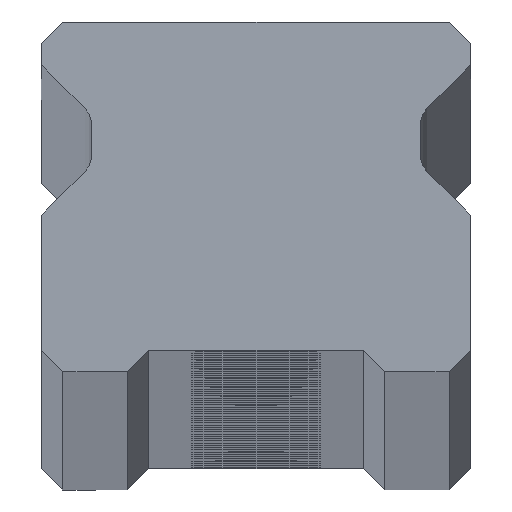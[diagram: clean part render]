
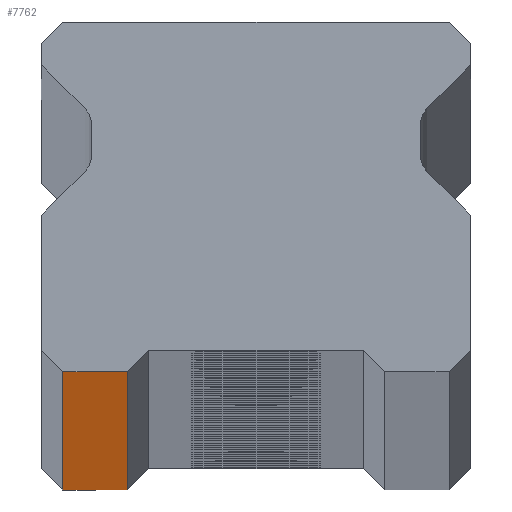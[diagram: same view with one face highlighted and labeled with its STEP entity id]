
A CAD part, top view. The second image highlights one B-rep face of the part: STEP entity #7762.
In plain terms, the highlighted planar face has unit normal (0, -1, 0).
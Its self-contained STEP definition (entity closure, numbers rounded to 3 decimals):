
#38 = VERTEX_POINT ( 'NONE', #3306 ) ;
#71 = DIRECTION ( 'NONE',  ( -1., 0., 0. ) ) ;
#610 = EDGE_CURVE ( 'NONE', #38, #5544, #5362, .T. ) ;
#655 = CARTESIAN_POINT ( 'NONE',  ( -9., 0., -1580. ) ) ;
#660 = EDGE_CURVE ( 'NONE', #38, #1353, #4820, .T. ) ;
#843 = DIRECTION ( 'NONE',  ( 1., 0., 0. ) ) ;
#1353 = VERTEX_POINT ( 'NONE', #3010 ) ;
#1498 = AXIS2_PLACEMENT_3D ( 'NONE', #8452, #7755, #71 ) ;
#1629 = ORIENTED_EDGE ( 'NONE', *, *, #660, .F. ) ;
#1676 = VECTOR ( 'NONE', #843, 1000. ) ;
#1873 = CARTESIAN_POINT ( 'NONE',  ( -6., 0., -1580. ) ) ;
#1911 = CARTESIAN_POINT ( 'NONE',  ( -6., 0., -1580. ) ) ;
#2372 = VECTOR ( 'NONE', #4743, 1000. ) ;
#2755 = VECTOR ( 'NONE', #6215, 1000. ) ;
#2898 = PLANE ( 'NONE',  #1498 ) ;
#3010 = CARTESIAN_POINT ( 'NONE',  ( -6., 0., 1580. ) ) ;
#3306 = CARTESIAN_POINT ( 'NONE',  ( -9., 0., 1580. ) ) ;
#3566 = EDGE_CURVE ( 'NONE', #4948, #1353, #6835, .T. ) ;
#3673 = ORIENTED_EDGE ( 'NONE', *, *, #3566, .T. ) ;
#4253 = EDGE_CURVE ( 'NONE', #5544, #4948, #7583, .T. ) ;
#4743 = DIRECTION ( 'NONE',  ( 0., 0., 1. ) ) ;
#4820 = LINE ( 'NONE', #5571, #2755 ) ;
#4948 = VERTEX_POINT ( 'NONE', #1911 ) ;
#5272 = ORIENTED_EDGE ( 'NONE', *, *, #610, .T. ) ;
#5362 = LINE ( 'NONE', #8330, #6460 ) ;
#5544 = VERTEX_POINT ( 'NONE', #655 ) ;
#5571 = CARTESIAN_POINT ( 'NONE',  ( 10., 0., 1580. ) ) ;
#5820 = ORIENTED_EDGE ( 'NONE', *, *, #4253, .T. ) ;
#6215 = DIRECTION ( 'NONE',  ( 1., 0., 0. ) ) ;
#6460 = VECTOR ( 'NONE', #7597, 1000. ) ;
#6835 = LINE ( 'NONE', #1873, #2372 ) ;
#7583 = LINE ( 'NONE', #8504, #1676 ) ;
#7597 = DIRECTION ( 'NONE',  ( 0., 0., -1. ) ) ;
#7755 = DIRECTION ( 'NONE',  ( 0., 1., 0. ) ) ;
#7762 = ADVANCED_FACE ( 'NONE', ( #7862 ), #2898, .F. ) ;
#7862 = FACE_OUTER_BOUND ( 'NONE', #8533, .T. ) ;
#8330 = CARTESIAN_POINT ( 'NONE',  ( -9., 0., 1580. ) ) ;
#8452 = CARTESIAN_POINT ( 'NONE',  ( 10., 0., 1580. ) ) ;
#8504 = CARTESIAN_POINT ( 'NONE',  ( 10., 0., -1580. ) ) ;
#8533 = EDGE_LOOP ( 'NONE', ( #5820, #3673, #1629, #5272 ) ) ;
